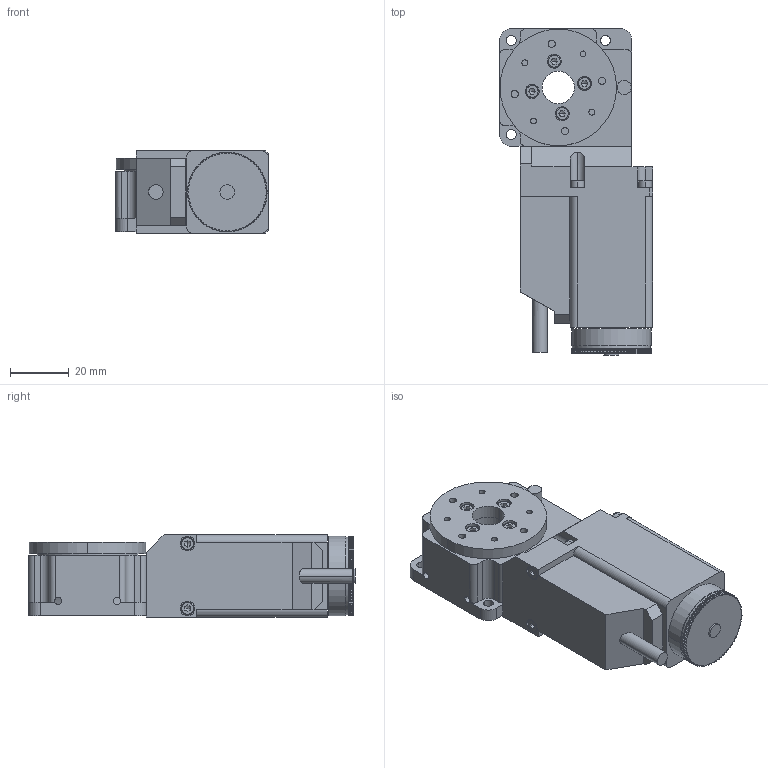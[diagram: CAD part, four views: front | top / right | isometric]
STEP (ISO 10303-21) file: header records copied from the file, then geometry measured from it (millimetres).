
FILE_DESCRIPTION (( 'STEP AP203' ), '1' );
FILE_NAME ('8MR174-11-28.STEP', '2009-01-30T20:06:27', ( 'Darius' ), ( '' ), 'SwSTEP 2.0', 'SolidWorks 2003240', '' );
FILE_SCHEMA (( 'CONFIG_CONTROL_DESIGN' ));
Length unit declared in the file: millimetre
Products named in the file (1): 8MR174-11-28
Bounding box: 52 x 111 x 28 mm (x, y, z)
Volume: 109029 mm3; surface area: 24197 mm2
Topology: 1 solids, 17 shells, 1020 faces, 2792 edges, 1831 vertices
Faces by surface type: cylinder 552, plane 396, cone 48, bspline 24
Entity records: 34270 total; most frequent: CARTESIAN_POINT 8277, ORIENTED_EDGE 5524, DIRECTION 5478, EDGE_CURVE 2762, AXIS2_PLACEMENT_3D 2066, VERTEX_POINT 1831, VECTOR 1346, LINE 1346
